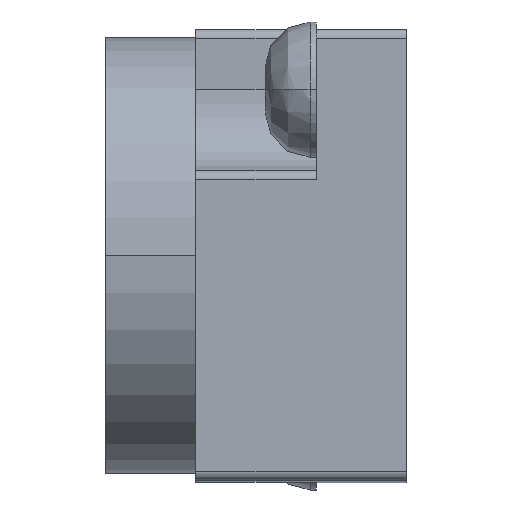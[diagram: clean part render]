
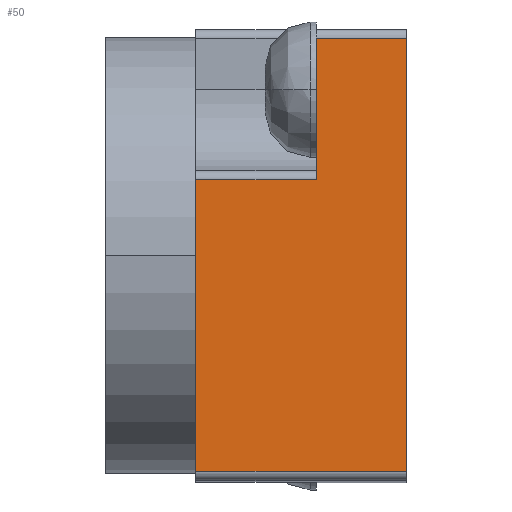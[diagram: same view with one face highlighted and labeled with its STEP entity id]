
A CAD part, top view. The second image highlights one B-rep face of the part: STEP entity #50.
In plain terms, the highlighted planar face has unit normal (0, 0, 1).
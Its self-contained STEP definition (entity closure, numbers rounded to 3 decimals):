
#50=ADVANCED_FACE('',(#199),#198,.T.);
#198=PLANE('',#715);
#199=FACE_OUTER_BOUND('',#716,.T.);
#712=CARTESIAN_POINT('',(-7.7,-16.14,45.6));
#713=DIRECTION('',(0.,0.,1.));
#714=DIRECTION('',(1.,0.,0.));
#715=AXIS2_PLACEMENT_3D('',#712,#713,#714);
#716=EDGE_LOOP('',(#1134,#1135,#1136,#1137,#1138,#1139));
#1134=ORIENTED_EDGE('',*,*,#1404,.F.);
#1135=ORIENTED_EDGE('',*,*,#1411,.F.);
#1136=ORIENTED_EDGE('',*,*,#1375,.T.);
#1137=ORIENTED_EDGE('',*,*,#1412,.T.);
#1138=ORIENTED_EDGE('',*,*,#1413,.F.);
#1139=ORIENTED_EDGE('',*,*,#1379,.F.);
#1375=EDGE_CURVE('',#1518,#1701,#1708,.T.);
#1379=EDGE_CURVE('',#1728,#1736,#1737,.T.);
#1404=EDGE_CURVE('',#1903,#1728,#1910,.T.);
#1411=EDGE_CURVE('',#1518,#1903,#1952,.T.);
#1412=EDGE_CURVE('',#1701,#1958,#1959,.T.);
#1413=EDGE_CURVE('',#1736,#1958,#1965,.T.);
#1518=VERTEX_POINT('',#2480);
#1701=VERTEX_POINT('',#2598);
#1708=LINE('',#2603,#2604);
#1728=VERTEX_POINT('',#2616);
#1736=VERTEX_POINT('',#2622);
#1737=LINE('',#2623,#2624);
#1903=VERTEX_POINT('',#2730);
#1910=LINE('',#2735,#2736);
#1952=LINE('',#2756,#2757);
#1958=VERTEX_POINT('',#2759);
#1959=LINE('',#2760,#2761);
#1965=LINE('',#2763,#2764);
#2480=CARTESIAN_POINT('',(-7.,-5.,45.6));
#2598=CARTESIAN_POINT('',(-7.,-14.7,45.6));
#2603=CARTESIAN_POINT('',(-7.,-5.,45.6));
#2604=VECTOR('',#2605,9.7);
#2605=DIRECTION('',(0.,-1.,0.));
#2616=CARTESIAN_POINT('',(-3.,-0.3,45.6));
#2622=CARTESIAN_POINT('',(0.,-0.3,45.6));
#2623=CARTESIAN_POINT('',(-3.,-0.3,45.6));
#2624=VECTOR('',#2625,3.);
#2625=DIRECTION('',(1.,0.,0.));
#2730=CARTESIAN_POINT('',(-3.,-5.,45.6));
#2735=CARTESIAN_POINT('',(-3.,-5.,45.6));
#2736=VECTOR('',#2737,4.7);
#2737=DIRECTION('',(0.,1.,0.));
#2756=CARTESIAN_POINT('',(-7.,-5.,45.6));
#2757=VECTOR('',#2758,4.);
#2758=DIRECTION('',(1.,0.,0.));
#2759=CARTESIAN_POINT('',(0.,-14.7,45.6));
#2760=CARTESIAN_POINT('',(-7.,-14.7,45.6));
#2761=VECTOR('',#2762,7.);
#2762=DIRECTION('',(1.,0.,0.));
#2763=CARTESIAN_POINT('',(0.,-0.3,45.6));
#2764=VECTOR('',#2765,14.4);
#2765=DIRECTION('',(0.,-1.,0.));
